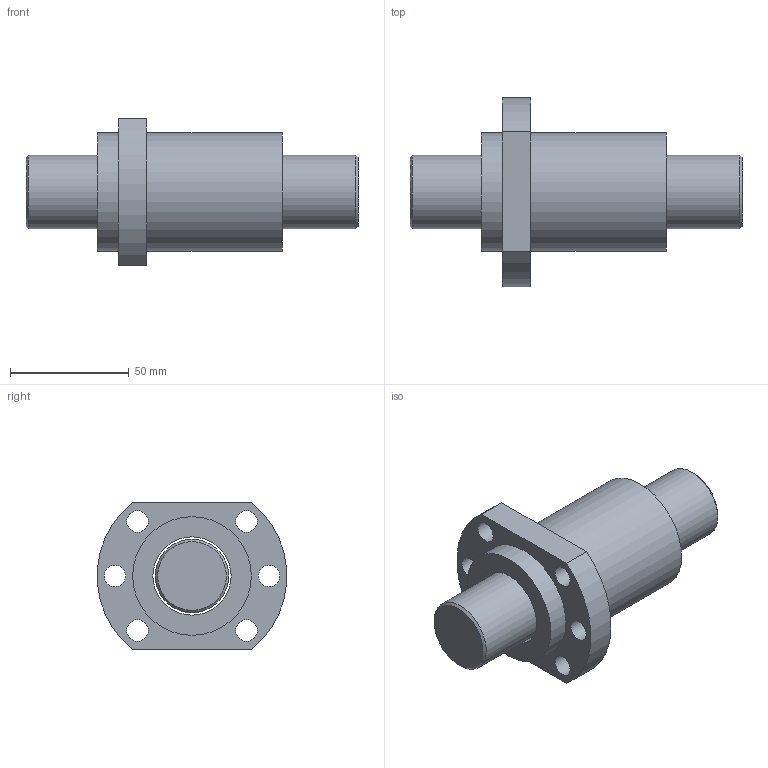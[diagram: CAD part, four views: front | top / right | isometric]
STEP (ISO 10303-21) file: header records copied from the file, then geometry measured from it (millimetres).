
FILE_DESCRIPTION(/* description */ (''),/* implementation_level */ '2;1');
FILE_NAME(/* name */ 'SFA3232-1.8.stp',/* time_stamp */ '2019-04-02T11:58:35+08:00',/* author */ (''),/* organization */ (''),/* preprocessor_version */ 'ST-DEVELOPER v14',/* originating_system */ 'SIEMENS PLM Software NX 8.0',/* authorisation */ '');
FILE_SCHEMA (('AP203_CONFIGURATION_CONTROLLED_3D_DESIGN_OF_MECHANICAL_PARTS_AND_ASSEMBLIES_MIM_LF { 1 0 10303 403 2 1 2}'));
Length unit declared in the file: millimetre
Products named in the file (1): 00251B18CDB0b5j8
Bounding box: 140 x 79.74 x 62 mm (x, y, z)
Volume: 216726.2 mm3; surface area: 44768.2 mm2
Topology: 2 solids, 2 shells, 22 faces, 49 edges, 33 vertices
Faces by surface type: cylinder 12, plane 8, cone 2
Full cylindrical faces by diameter (mm): 9 x6, 31 x1, 33 x1, 50 x2
Entity records: 658 total; most frequent: DIRECTION 106, CARTESIAN_POINT 87, ORIENTED_EDGE 68, EDGE_LOOP 50, AXIS2_PLACEMENT_3D 49, FACE_BOUND 44, EDGE_CURVE 34, VERTEX_POINT 30
